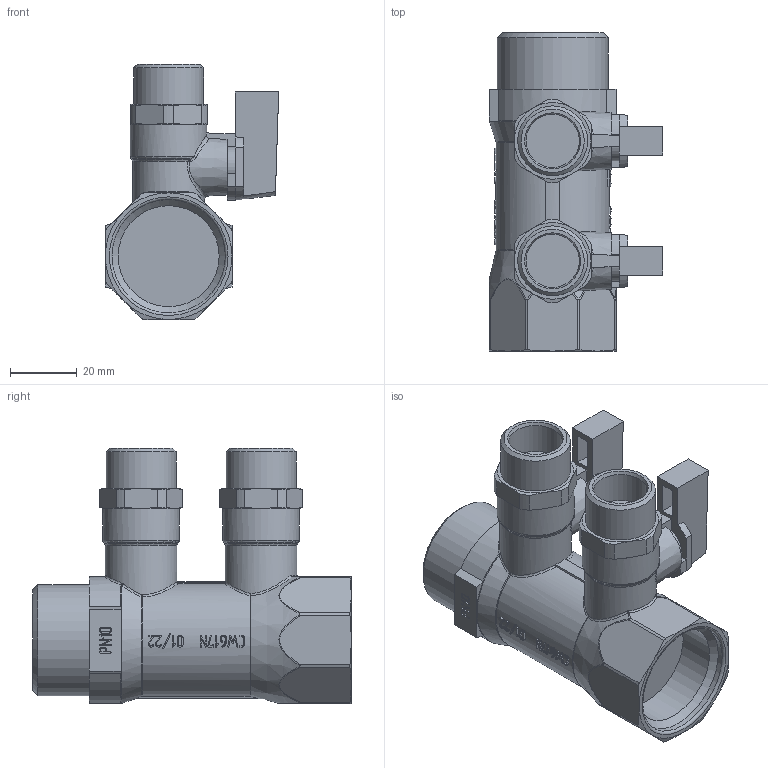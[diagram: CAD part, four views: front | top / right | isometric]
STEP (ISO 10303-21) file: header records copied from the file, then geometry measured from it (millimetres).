
FILE_DESCRIPTION(('STEP AP203'), '1');
FILE_NAME('覆.622621.011.000 捘 - VTc.580.N.0602', '2024-07-25T11:46:57', ('Boss'), (''), 'C3D Converter', 'C3D Toolkit', '');
FILE_SCHEMA(('CONFIG_CONTROL_DESIGN'));
Length unit declared in the file: millimetre
Products named in the file (1): ВР.622621.011.000 СБ
Bounding box: 52 x 95.5 x 76.5 mm (x, y, z)
Volume: 109774.5 mm3; surface area: 29500.6 mm2
Topology: 3 solids, 3 shells, 884 faces, 2386 edges, 1553 vertices
Faces by surface type: extrusion 338, plane 330, cylinder 91, cone 53, bspline 47, torus 25
Full cylindrical faces by diameter (mm): 4 x2, 4.5 x2, 6.4 x2, 8 x2, 9.5 x2, 16 x2, 20.955 x2, 21.5 x2, 23 x2, 26 x1, 30.292 x1, 33.249 x1, 34 x1
Entity records: 41855 total; most frequent: CARTESIAN_POINT 22018, ORIENTED_EDGE 4688, DIRECTION 2866, EDGE_CURVE 2344, VERTEX_POINT 1553, VECTOR 1312, B_SPLINE_CURVE_WITH_KNOTS 1307, EDGE_LOOP 975
